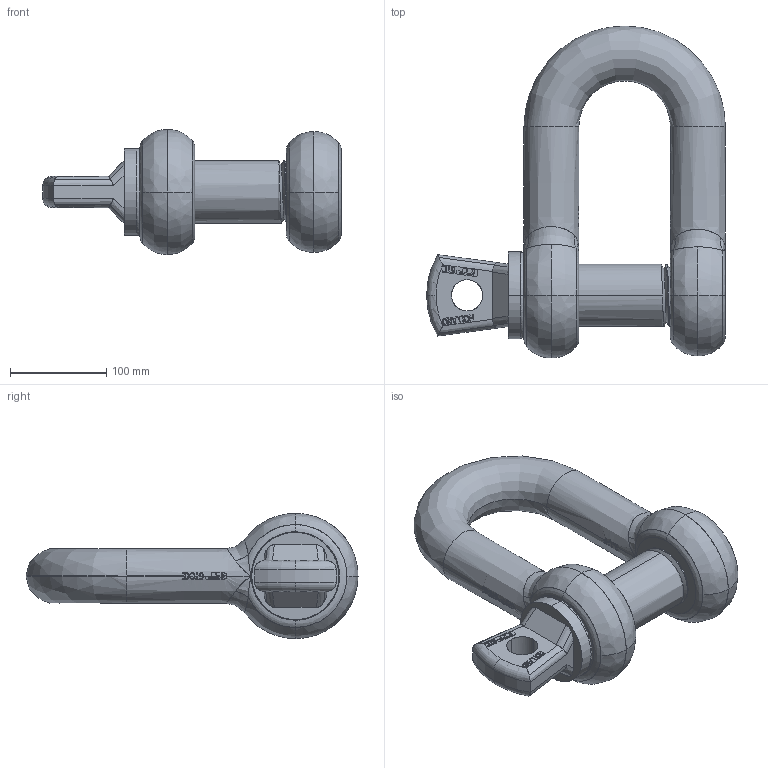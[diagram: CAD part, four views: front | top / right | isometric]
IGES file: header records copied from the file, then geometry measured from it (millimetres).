
Start section: START RECORD GO HERE.
Global section: file name: 42,5.igs; native system: Solidworks 2009      A Version 5 Release 17 ; preprocessor: Solidworks                 ; author: v.b.; organization: P4; date: 20090807.081423; units: millimetre
Bounding box: 310 x 344.5 x 130 mm (x, y, z)
Surface area: 263182 mm2 (no closed solid volume)
Topology: 0 solids, 0 shells, 778 faces, 6645 edges, 6637 vertices
Faces by surface type: bspline 314, plane 312, revolution 152
